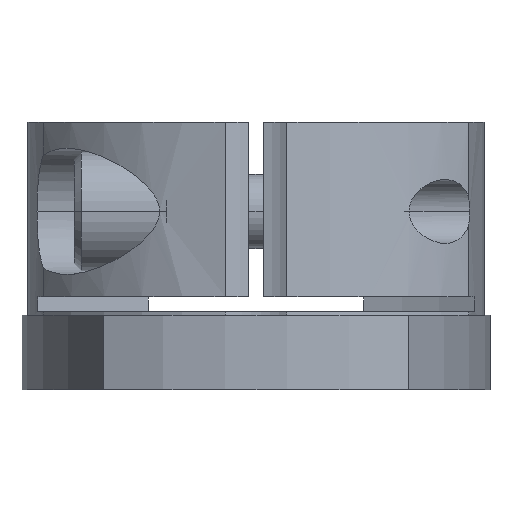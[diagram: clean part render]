
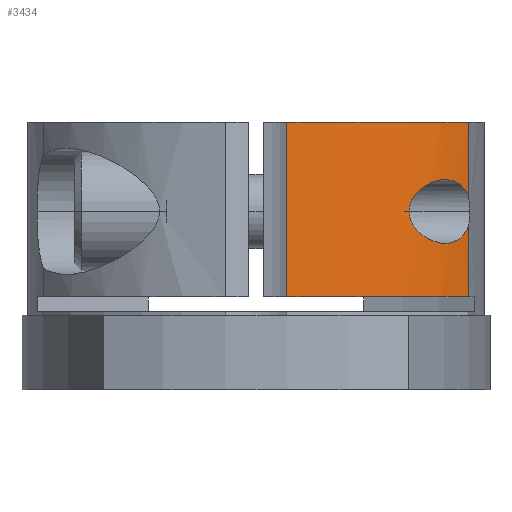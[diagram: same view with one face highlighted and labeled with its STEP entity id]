
A CAD part, front view. The second image highlights one B-rep face of the part: STEP entity #3434.
In plain terms, the highlighted cylindrical face has radius 35 mm (diameter 70 mm), a partial arc.
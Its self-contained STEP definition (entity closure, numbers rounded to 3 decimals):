
#591=CARTESIAN_POINT('',(28.638,-20.121,20.857));
#592=VERTEX_POINT('',#591);
#604=CARTESIAN_POINT('',(20.594,-28.3,19.0));
#605=VERTEX_POINT('',#604);
#606=CARTESIAN_POINT('',(20.594,-28.3,19.0));
#607=CARTESIAN_POINT('',(20.594,-28.3,19.275));
#608=CARTESIAN_POINT('',(20.631,-28.273,19.549));
#609=CARTESIAN_POINT('',(20.77,-28.171,20.078));
#610=CARTESIAN_POINT('',(20.872,-28.096,20.333));
#611=CARTESIAN_POINT('',(21.122,-27.908,20.812));
#612=CARTESIAN_POINT('',(21.271,-27.795,21.035));
#613=CARTESIAN_POINT('',(21.593,-27.546,21.444));
#614=CARTESIAN_POINT('',(21.766,-27.41,21.628));
#615=CARTESIAN_POINT('',(22.45,-26.859,22.274));
#616=CARTESIAN_POINT('',(23.058,-26.345,22.658));
#617=CARTESIAN_POINT('',(23.983,-25.495,23.044));
#618=CARTESIAN_POINT('',(24.293,-25.2,23.141));
#619=CARTESIAN_POINT('',(24.9,-24.6,23.269));
#620=CARTESIAN_POINT('',(25.196,-24.297,23.3));
#621=CARTESIAN_POINT('',(25.721,-23.74,23.3));
#622=CARTESIAN_POINT('',(25.972,-23.465,23.276));
#623=CARTESIAN_POINT('',(26.467,-22.905,23.168));
#624=CARTESIAN_POINT('',(26.711,-22.62,23.084));
#625=CARTESIAN_POINT('',(27.174,-22.062,22.85));
#626=CARTESIAN_POINT('',(27.393,-21.788,22.701));
#627=CARTESIAN_POINT('',(27.795,-21.273,22.34));
#628=CARTESIAN_POINT('',(27.977,-21.032,22.128));
#629=CARTESIAN_POINT('',(28.254,-20.658,21.716));
#630=CARTESIAN_POINT('',(28.366,-20.504,21.517));
#631=CARTESIAN_POINT('',(28.528,-20.277,21.158));
#632=CARTESIAN_POINT('',(28.586,-20.195,21.01));
#633=CARTESIAN_POINT('',(28.638,-20.121,20.857));
#634=B_SPLINE_CURVE_WITH_KNOTS('',3,(#606,#607,#608,#609,#610,#611,#612,#613,#614,#615,#616,#617,#618,#619,#620,#621,#622,#623,#624,#625,#626,#627,#628,#629,#630,#631,#632,#633),.UNSPECIFIED.,.F.,.U.,(4,2,2,2,2,2,2,2,2,2,2,2,2,4),(15.653,16.477,17.301,18.125,18.949,21.395,22.619,23.842,24.914,25.986,27.059,28.131,28.925,29.431),.UNSPECIFIED.);
#635=EDGE_CURVE('',#605,#592,#634,.T.);
#2498=CARTESIAN_POINT('',(28.638,-20.121,17.143));
#2499=VERTEX_POINT('',#2498);
#2500=CARTESIAN_POINT('',(28.638,-20.121,17.143));
#2501=CARTESIAN_POINT('',(28.586,-20.195,16.99));
#2502=CARTESIAN_POINT('',(28.528,-20.277,16.842));
#2503=CARTESIAN_POINT('',(28.366,-20.504,16.483));
#2504=CARTESIAN_POINT('',(28.254,-20.658,16.284));
#2505=CARTESIAN_POINT('',(27.977,-21.032,15.872));
#2506=CARTESIAN_POINT('',(27.795,-21.273,15.66));
#2507=CARTESIAN_POINT('',(27.393,-21.788,15.299));
#2508=CARTESIAN_POINT('',(27.174,-22.062,15.15));
#2509=CARTESIAN_POINT('',(26.711,-22.62,14.916));
#2510=CARTESIAN_POINT('',(26.467,-22.905,14.832));
#2511=CARTESIAN_POINT('',(25.972,-23.465,14.724));
#2512=CARTESIAN_POINT('',(25.721,-23.74,14.7));
#2513=CARTESIAN_POINT('',(25.196,-24.297,14.7));
#2514=CARTESIAN_POINT('',(24.9,-24.6,14.731));
#2515=CARTESIAN_POINT('',(24.293,-25.2,14.859));
#2516=CARTESIAN_POINT('',(23.983,-25.495,14.956));
#2517=CARTESIAN_POINT('',(23.058,-26.345,15.342));
#2518=CARTESIAN_POINT('',(22.45,-26.859,15.726));
#2519=CARTESIAN_POINT('',(21.766,-27.41,16.372));
#2520=CARTESIAN_POINT('',(21.593,-27.546,16.556));
#2521=CARTESIAN_POINT('',(21.271,-27.795,16.965));
#2522=CARTESIAN_POINT('',(21.122,-27.908,17.188));
#2523=CARTESIAN_POINT('',(20.872,-28.096,17.667));
#2524=CARTESIAN_POINT('',(20.77,-28.171,17.922));
#2525=CARTESIAN_POINT('',(20.631,-28.273,18.451));
#2526=CARTESIAN_POINT('',(20.594,-28.3,18.725));
#2527=CARTESIAN_POINT('',(20.594,-28.3,19.0));
#2528=B_SPLINE_CURVE_WITH_KNOTS('',3,(#2500,#2501,#2502,#2503,#2504,#2505,#2506,#2507,#2508,#2509,#2510,#2511,#2512,#2513,#2514,#2515,#2516,#2517,#2518,#2519,#2520,#2521,#2522,#2523,#2524,#2525,#2526,#2527),.UNSPECIFIED.,.F.,.U.,(4,2,2,2,2,2,2,2,2,2,2,2,2,4),(1.875,2.382,3.176,4.248,5.32,6.393,7.465,8.688,9.911,12.357,13.181,14.005,14.829,15.653),.UNSPECIFIED.);
#2529=EDGE_CURVE('',#2499,#605,#2528,.T.);
#2587=CARTESIAN_POINT('',(28.638,-20.121,31.0));
#2588=VERTEX_POINT('',#2587);
#2596=CARTESIAN_POINT('',(28.638,-20.121,20.857));
#2597=DIRECTION('',(0.0,0.0,1.0));
#2598=VECTOR('',#2597,10.143);
#2599=LINE('',#2596,#2598);
#2600=EDGE_CURVE('',#592,#2588,#2599,.T.);
#2604=CARTESIAN_POINT('',(28.638,-20.121,7.5));
#2605=VERTEX_POINT('',#2604);
#2606=CARTESIAN_POINT('',(28.638,-20.121,7.5));
#2607=DIRECTION('',(0.0,0.0,1.0));
#2608=VECTOR('',#2607,9.643);
#2609=LINE('',#2606,#2608);
#2610=EDGE_CURVE('',#2605,#2499,#2609,.T.);
#3119=CARTESIAN_POINT('',(4.15,-34.753,7.5));
#3120=VERTEX_POINT('',#3119);
#3128=CARTESIAN_POINT('',(4.15,-34.753,31.0));
#3129=VERTEX_POINT('',#3128);
#3130=CARTESIAN_POINT('',(4.15,-34.753,31.0));
#3131=DIRECTION('',(0.0,0.0,-1.0));
#3132=VECTOR('',#3131,23.5);
#3133=LINE('',#3130,#3132);
#3134=EDGE_CURVE('',#3129,#3120,#3133,.T.);
#3260=CARTESIAN_POINT('',(0.,0.,31.0));
#3261=DIRECTION('',(0.0,0.0,-1.0));
#3262=DIRECTION('',(1.0,0.0,0.0));
#3263=AXIS2_PLACEMENT_3D('',#3260,#3261,#3262);
#3264=CIRCLE('',#3263,35.);
#3265=EDGE_CURVE('',#2588,#3129,#3264,.T.);
#3359=CARTESIAN_POINT('',(0.,0.,7.5));
#3360=DIRECTION('',(0.0,0.0,1.0));
#3361=DIRECTION('',(1.0,0.0,0.0));
#3362=AXIS2_PLACEMENT_3D('',#3359,#3360,#3361);
#3363=CIRCLE('',#3362,35.);
#3364=EDGE_CURVE('',#3120,#2605,#3363,.T.);
#3420=CARTESIAN_POINT('',(0.,0.,-5.0));
#3421=DIRECTION('',(0.0,0.0,1.0));
#3422=DIRECTION('',(1.0,0.0,0.0));
#3423=AXIS2_PLACEMENT_3D('',#3420,#3421,#3422);
#3424=CYLINDRICAL_SURFACE('',#3423,35.);
#3425=ORIENTED_EDGE('',*,*,#2529,.T.);
#3426=ORIENTED_EDGE('',*,*,#635,.T.);
#3427=ORIENTED_EDGE('',*,*,#2600,.T.);
#3428=ORIENTED_EDGE('',*,*,#3265,.T.);
#3429=ORIENTED_EDGE('',*,*,#3134,.T.);
#3430=ORIENTED_EDGE('',*,*,#3364,.T.);
#3431=ORIENTED_EDGE('',*,*,#2610,.T.);
#3432=EDGE_LOOP('',(#3425,#3426,#3427,#3428,#3429,#3430,#3431));
#3433=FACE_OUTER_BOUND('',#3432,.T.);
#3434=ADVANCED_FACE('',(#3433),#3424,.T.);
